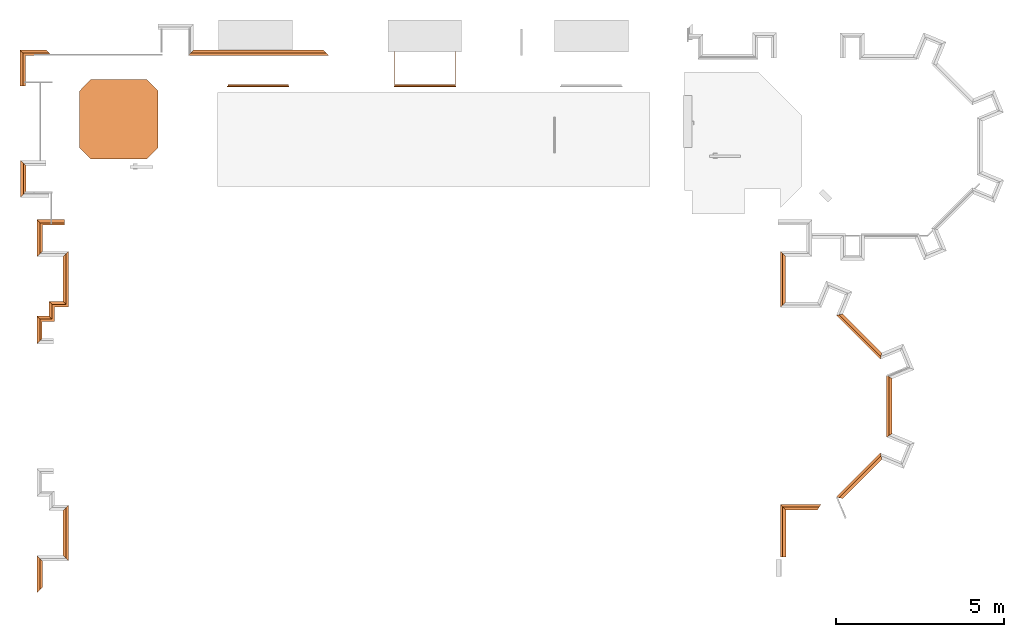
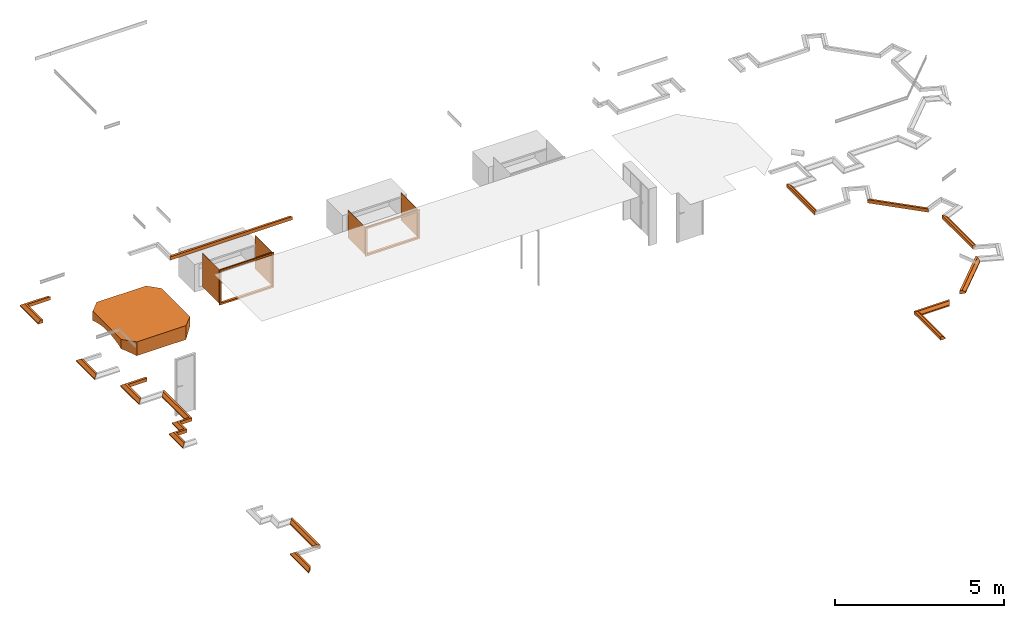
# One storey, part 4 of 9: 16 proxies.
"""IFC2X3 building model written with IfcOpenShell, lengths in metres."""

from ifc_helpers import new_model, entity, si_unit, converted_unit, derived_unit, direction, frame, origin, place, context, subcontext, project, spatial, faceted_brep, source, transform, mapped, material, material_list, type_object, type_shapes, element, save


model = new_model("IFC2X3")

# Units and contexts
model_context = context("Model", 3, precision=1e-05, world=origin(), true_north=direction((6.12303176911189e-17, 1.0)))
plan_context = context("Plan", 3, precision=1e-05, world=origin(), true_north=direction((6.12303176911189e-17, 1.0)))
body_context = subcontext(model_context, "Body", "Model", "MODEL_VIEW")
ifc_project = project(units=[si_unit("LENGTHUNIT", "METRE"), si_unit("AREAUNIT", "SQUARE_METRE"), si_unit("VOLUMEUNIT", "CUBIC_METRE"), converted_unit("PLANEANGLEUNIT", "DEGREE", entity("IfcRatioMeasure", 0.0174532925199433), si_unit("PLANEANGLEUNIT", "RADIAN"), dimensions=[0, 0, 0, 0, 0, 0, 0]), si_unit("MASSUNIT", "GRAM", prefix="KILO"), derived_unit("MASSDENSITYUNIT", [(si_unit("MASSUNIT", "GRAM", prefix="KILO"), 1), (si_unit("LENGTHUNIT", "METRE"), -3)]), derived_unit("MOMENTOFINERTIAUNIT", [(si_unit("LENGTHUNIT", "METRE"), 4)]), si_unit("TIMEUNIT", "SECOND"), si_unit("FREQUENCYUNIT", "HERTZ"), si_unit("THERMODYNAMICTEMPERATUREUNIT", "DEGREE_CELSIUS"), derived_unit("THERMALTRANSMITTANCEUNIT", [(si_unit("MASSUNIT", "GRAM", prefix="KILO"), 1), (si_unit("THERMODYNAMICTEMPERATUREUNIT", "KELVIN"), -1), (si_unit("TIMEUNIT", "SECOND"), -3)]), derived_unit("VOLUMETRICFLOWRATEUNIT", [(si_unit("LENGTHUNIT", "METRE"), 3), (si_unit("TIMEUNIT", "SECOND"), -1)]), derived_unit("MASSFLOWRATEUNIT", [(si_unit("MASSUNIT", "GRAM", prefix="KILO"), 1), (si_unit("TIMEUNIT", "SECOND"), -1)]), derived_unit("ROTATIONALFREQUENCYUNIT", [(si_unit("TIMEUNIT", "SECOND"), -1)]), si_unit("ELECTRICCURRENTUNIT", "AMPERE"), si_unit("ELECTRICVOLTAGEUNIT", "VOLT"), si_unit("POWERUNIT", "WATT"), si_unit("FORCEUNIT", "NEWTON", prefix="KILO"), si_unit("ILLUMINANCEUNIT", "LUX"), si_unit("LUMINOUSFLUXUNIT", "LUMEN"), si_unit("LUMINOUSINTENSITYUNIT", "CANDELA"), derived_unit("USERDEFINED", [(si_unit("MASSUNIT", "GRAM", prefix="KILO"), -1), (si_unit("LENGTHUNIT", "METRE"), -2), (si_unit("TIMEUNIT", "SECOND"), 3), (si_unit("LUMINOUSFLUXUNIT", "LUMEN"), 1)]), derived_unit("SOUNDPOWERUNIT", [(si_unit("MASSUNIT", "GRAM", prefix="KILO"), 1), (si_unit("LENGTHUNIT", "METRE"), 2), (si_unit("TIMEUNIT", "SECOND"), -3)]), derived_unit("SOUNDPRESSUREUNIT", [(si_unit("MASSUNIT", "GRAM", prefix="KILO"), 1), (si_unit("LENGTHUNIT", "METRE"), -1), (si_unit("TIMEUNIT", "SECOND"), -2)]), derived_unit("LINEARVELOCITYUNIT", [(si_unit("LENGTHUNIT", "METRE"), 1), (si_unit("TIMEUNIT", "SECOND"), -1)]), si_unit("PRESSUREUNIT", "PASCAL"), derived_unit("USERDEFINED", [(si_unit("LENGTHUNIT", "METRE"), -2), (si_unit("MASSUNIT", "GRAM", prefix="KILO"), 1), (si_unit("TIMEUNIT", "SECOND"), -2)]), derived_unit("LINEARFORCEUNIT", [(si_unit("MASSUNIT", "GRAM", prefix="KILO"), 1), (si_unit("LENGTHUNIT", "METRE"), 1), (si_unit("TIMEUNIT", "SECOND"), -2), (si_unit("LENGTHUNIT", "METRE"), -1)]), derived_unit("PLANARFORCEUNIT", [(si_unit("MASSUNIT", "GRAM", prefix="KILO"), 1), (si_unit("LENGTHUNIT", "METRE"), 1), (si_unit("TIMEUNIT", "SECOND"), -2), (si_unit("LENGTHUNIT", "METRE"), -2)])], contexts=[model_context, plan_context])

# Site, building, storey
site_placement = place(None, frame((-11.0823275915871, 23.8300534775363, 0.0)))
site = spatial("IfcSite", under=ifc_project, at=site_placement, Name="Default", CompositionType="ELEMENT")
building_placement = place(site_placement, origin())
building = spatial("IfcBuilding", under=site, at=building_placement, Name="Englische Kirche", CompositionType="ELEMENT")
storey_placement = place(building_placement, frame((0.0, 0.0, -3.07499999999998)))
storey = spatial("IfcBuildingStorey", under=building, at=storey_placement, Name="Ebene -1 Basement Phase 6", CompositionType="ELEMENT", Elevation=-3.07499999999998)

# Proxies
building_element_proxy_type_1 = type_object("IfcBuildingElementProxyType", Name="Profilierte Wand:plinth", PredefinedType="NOTDEFINED")
proxy_1_placement = place(storey_placement, frame((-1.44172416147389, 6.71181126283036, 2.97999999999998)))
element("IfcBuildingElementProxy", 1, at=proxy_1_placement, inside=storey, type_object=building_element_proxy_type_1, Name="Profilierte Wand:plinth", ObjectType="Profilierte Wand:plinth", context=body_context, shape_type="Brep", body=[
    faceted_brep([(0.162669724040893, 0.667669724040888, 0.12), (0.162669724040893, 0.667669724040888, 0.0), (0.0, 0.830339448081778, 0.0), (0.0, 0.830339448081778, 0.0450000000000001), (0.0928971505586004, 0.73744229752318, 0.12), (0.162669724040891, 0.162669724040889, 0.12), (0.092897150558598, 0.0928971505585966, 0.12), (0.0, 0.0, 0.0450000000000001), (0.0, 0.0, 0.0), (0.162669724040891, 0.162669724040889, 0.0)], [[[0, 1, 2, 3, 4]], [[5, 6, 7, 8, 9]], [[1, 0, 5, 9]], [[2, 1, 9, 8]], [[3, 2, 8, 7]], [[4, 3, 7, 6]], [[0, 4, 6, 5]]]),
    faceted_brep([(0.947669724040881, 1.10566972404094, 0.12), (0.877897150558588, 1.17544229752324, 0.12), (0.784999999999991, 1.26833944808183, 0.0450000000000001), (0.784999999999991, 1.26833944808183, 0.0), (0.947669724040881, 1.10566972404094, 0.0), (0.947669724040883, 2.76190767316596, 0.12), (0.947669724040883, 2.76190767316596, 0.0), (0.784999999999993, 2.59923794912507, 0.0), (0.784999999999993, 2.59923794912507, 0.0450000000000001), (0.877897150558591, 2.69213509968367, 0.12)], [[[0, 1, 2, 3, 4]], [[5, 6, 7, 8, 9]], [[1, 0, 5, 9]], [[2, 1, 9, 8]], [[3, 2, 8, 7]], [[4, 3, 7, 6]], [[0, 4, 6, 5]]]),
    faceted_brep([(0.162669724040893, 0.667669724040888, 0.12), (0.0928971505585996, 0.737442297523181, 0.12), (0.0, 0.830339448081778, 0.0450000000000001), (0.0, 0.830339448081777, 0.0), (0.162669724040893, 0.667669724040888, 0.0), (0.52266972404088, 0.667669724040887, 0.12), (0.522669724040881, 0.667669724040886, 0.0), (0.359999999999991, 0.830339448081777, 0.0), (0.359999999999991, 0.830339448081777, 0.0450000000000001), (0.452897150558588, 0.737442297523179, 0.12)], [[[0, 1, 2, 3, 4]], [[5, 6, 7, 8, 9]], [[0, 4, 6, 5]], [[4, 3, 7, 6]], [[3, 2, 8, 7]], [[2, 1, 9, 8]], [[1, 0, 5, 9]]]),
    faceted_brep([(0.52266972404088, 0.667669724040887, 0.12), (0.452897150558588, 0.737442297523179, 0.12), (0.359999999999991, 0.830339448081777, 0.0450000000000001), (0.359999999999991, 0.830339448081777, 0.0), (0.522669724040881, 0.667669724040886, 0.0), (0.522669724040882, 1.10566972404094, 0.12), (0.522669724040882, 1.10566972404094, 0.0), (0.359999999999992, 1.26833944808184, 0.0), (0.359999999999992, 1.26833944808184, 0.0450000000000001), (0.452897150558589, 1.17544229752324, 0.12)], [[[0, 1, 2, 3, 4]], [[5, 6, 7, 8, 9]], [[0, 4, 6, 5]], [[4, 3, 7, 6]], [[3, 2, 8, 7]], [[2, 1, 9, 8]], [[1, 0, 5, 9]]]),
    faceted_brep([(0.522669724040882, 1.10566972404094, 0.12), (0.452897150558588, 1.17544229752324, 0.12), (0.359999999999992, 1.26833944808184, 0.0450000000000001), (0.359999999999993, 1.26833944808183, 0.0), (0.522669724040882, 1.10566972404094, 0.0), (0.947669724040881, 1.10566972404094, 0.12), (0.947669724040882, 1.10566972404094, 0.0), (0.784999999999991, 1.26833944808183, 0.0), (0.784999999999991, 1.26833944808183, 0.0450000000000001), (0.877897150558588, 1.17544229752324, 0.12)], [[[0, 1, 2, 3, 4]], [[5, 6, 7, 8, 9]], [[0, 4, 6, 5]], [[4, 3, 7, 6]], [[3, 2, 8, 7]], [[2, 1, 9, 8]], [[1, 0, 5, 9]]]),
])
building_element_proxy_type_2 = type_object("IfcBuildingElementProxyType", Name="Profilierte Wand:plinth", PredefinedType="NOTDEFINED")
proxy_2_placement = place(storey_placement, frame((-1.9422123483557, 14.408718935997, 2.97999999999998)))
element("IfcBuildingElementProxy", 2, at=proxy_2_placement, inside=storey, type_object=building_element_proxy_type_2, Name="Profilierte Wand:plinth", ObjectType="Profilierte Wand:plinth", context=body_context, shape_type="Brep", body=[
    faceted_brep([(0.162669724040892, 0.905, 0.12), (0.0928971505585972, 0.974772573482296, 0.12), (0.0, 1.06766972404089, 0.0450000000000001), (0.0, 1.06766972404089, 0.0), (0.16266972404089, 0.905000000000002, 0.0), (0.952669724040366, 0.904999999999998, 0.12), (0.952669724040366, 0.904999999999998, 0.0), (0.789999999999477, 1.06766972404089, 0.0), (0.789999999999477, 1.06766972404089, 0.0450000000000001), (0.882897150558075, 0.974772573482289, 0.12)], [[[0, 1, 2, 3, 4]], [[5, 6, 7, 8, 9]], [[1, 0, 5, 9]], [[2, 1, 9, 8]], [[3, 2, 8, 7]], [[4, 3, 7, 6]], [[0, 4, 6, 5]]]),
    faceted_brep([(0.162669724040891, 0.905, 0.12), (0.162669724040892, 0.905, 0.0), (0.0, 1.06766972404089, 0.0), (0.0, 1.06766972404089, 0.0450000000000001), (0.0928971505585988, 0.974772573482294, 0.12), (0.16266972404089, 0.0, 0.12), (0.0928971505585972, 0.0, 0.12), (0.0, 0.0, 0.0450000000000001), (0.0, 0.0, 0.0), (0.16266972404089, 0.0, 0.0)], [[[0, 1, 2, 3, 4]], [[5, 6, 7, 8, 9]], [[1, 0, 5, 9]], [[2, 1, 9, 8]], [[3, 2, 8, 7]], [[4, 3, 7, 6]], [[0, 4, 6, 5]]]),
])
building_element_proxy_type_3 = type_object("IfcBuildingElementProxyType", Name="Profilierte Wand:plinth", PredefinedType="NOTDEFINED")
proxy_3_placement = place(storey_placement, frame((-1.4367241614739, 9.31104921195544, 2.97999999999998)))
element("IfcBuildingElementProxy", 3, at=proxy_3_placement, inside=storey, type_object=building_element_proxy_type_3, Name="Profilierte Wand:plinth", ObjectType="Profilierte Wand:plinth", context=body_context, shape_type="Brep", body=[
    faceted_brep([(0.162669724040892, 0.942669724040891, 0.12), (0.0928971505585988, 1.01244229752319, 0.12), (0.0, 1.10533944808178, 0.0450000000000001), (0.0, 1.10533944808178, 0.0), (0.162669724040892, 0.942669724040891, 0.0), (0.817669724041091, 0.942669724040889, 0.12), (0.817669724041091, 0.942669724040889, 0.0), (0.817669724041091, 1.10533944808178, 0.0), (0.817669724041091, 1.10533944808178, 0.0450000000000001), (0.817669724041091, 1.01244229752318, 0.12)], [[[0, 1, 2, 3, 4]], [[5, 6, 7, 8, 9]], [[1, 0, 5, 9]], [[2, 1, 9, 8]], [[3, 2, 8, 7]], [[4, 3, 7, 6]], [[0, 4, 6, 5]]]),
    faceted_brep([(0.162669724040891, 0.162669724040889, 0.120000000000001), (0.092897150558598, 0.0928971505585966, 0.120000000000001), (0.0, 0.0, 0.0450000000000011), (0.0, 0.0, 0.0), (0.162669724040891, 0.162669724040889, 0.0), (0.162669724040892, 0.942669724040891, 0.120000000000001), (0.162669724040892, 0.942669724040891, 0.0), (0.0, 1.10533944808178, 0.0), (0.0, 1.10533944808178, 0.0450000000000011), (0.0928971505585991, 1.01244229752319, 0.120000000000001)], [[[0, 1, 2, 3, 4]], [[5, 6, 7, 8, 9]], [[0, 4, 6, 5]], [[4, 3, 7, 6]], [[3, 2, 8, 7]], [[2, 1, 9, 8]], [[1, 0, 5, 9]]]),
])
building_element_proxy_type_4 = type_object("IfcBuildingElementProxyType", Name="Profilierte Wand:plinth", PredefinedType="NOTDEFINED")
proxy_4_placement = place(storey_placement, frame((-1.4367241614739, -0.708188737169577, 2.97999999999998)))
element("IfcBuildingElementProxy", 4, at=proxy_4_placement, inside=storey, type_object=building_element_proxy_type_4, Name="Profilierte Wand:plinth", ObjectType="Profilierte Wand:plinth", context=body_context, shape_type="Brep", body=[
    faceted_brep([(0.16266972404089, 0.162669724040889, 0.12), (0.0928971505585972, 0.0928971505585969, 0.119999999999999), (0.0, 0.0, 0.0449999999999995), (0.0, 0.0, 0.0), (0.16266972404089, 0.16266972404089, 0.0), (0.162669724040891, 0.94266972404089, 0.12), (0.162669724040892, 0.94266972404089, 0.0), (0.0, 1.10533944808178, 0.0), (0.0, 1.10533944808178, 0.0449999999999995), (0.0928971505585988, 1.01244229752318, 0.119999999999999)], [[[0, 1, 2, 3, 4]], [[5, 6, 7, 8, 9]], [[1, 0, 5, 9]], [[2, 1, 9, 8]], [[3, 2, 8, 7]], [[4, 3, 7, 6]], [[0, 4, 6, 5]]]),
])
building_element_proxy_type_5 = type_object("IfcBuildingElementProxyType", Name="Profilierte Wand:plinth", PredefinedType="NOTDEFINED")
proxy_5_placement = place(storey_placement, frame((-0.656724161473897, 0.23448098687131, 2.97999999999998)))
element("IfcBuildingElementProxy", 5, at=proxy_5_placement, inside=storey, type_object=building_element_proxy_type_5, Name="Profilierte Wand:plinth", ObjectType="Profilierte Wand:plinth", context=body_context, shape_type="Brep", body=[
    faceted_brep([(0.16266972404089, 0.0, 0.12), (0.0928971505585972, 0.069772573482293, 0.119999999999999), (0.0, 0.162669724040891, 0.0449999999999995), (0.0, 0.162669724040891, 0.0), (0.16266972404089, 0.0, 0.0), (0.162669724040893, 1.67, 0.12), (0.162669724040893, 1.67, 0.0), (0.0, 1.50733027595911, 0.0), (0.0, 1.50733027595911, 0.0449999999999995), (0.0928971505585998, 1.60022742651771, 0.119999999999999)], [[[0, 1, 2, 3, 4]], [[5, 6, 7, 8, 9]], [[1, 0, 5, 9]], [[2, 1, 9, 8]], [[3, 2, 8, 7]], [[4, 3, 7, 6]], [[0, 4, 6, 5]]]),
])
building_element_proxy_type_6 = type_object("IfcBuildingElementProxyType", Name="Profilierte Wand:plinth", PredefinedType="NOTDEFINED")
proxy_6_placement = place(storey_placement, frame((20.7351330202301, 1.75181126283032, 2.97999999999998)))
element("IfcBuildingElementProxy", 6, at=proxy_6_placement, inside=storey, type_object=building_element_proxy_type_6, Name="Profilierte Wand:plinth", ObjectType="Profilierte Wand:plinth", context=body_context, shape_type="Brep", body=[
    faceted_brep([(0.0, 0.162669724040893, 0.12), (0.0, 0.162669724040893, 0.0), (0.162669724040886, 0.0, 0.0), (0.162669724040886, 0.0, 0.0450000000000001), (0.0697725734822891, 0.0928971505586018, 0.12), (1.20939098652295, 0.16266972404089, 0.12), (1.16277044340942, 0.0928971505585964, 0.12), (1.10069855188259, 0.0, 0.0450000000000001), (1.10069855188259, 0.0, 0.0), (1.20939098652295, 0.162669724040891, 0.0)], [[[0, 1, 2, 3, 4]], [[5, 6, 7, 8, 9]], [[1, 0, 5, 9]], [[2, 1, 9, 8]], [[3, 2, 8, 7]], [[4, 3, 7, 6]], [[0, 4, 6, 5]]]),
])
building_element_proxy_type_7 = type_object("IfcBuildingElementProxyType", Name="Profilierte Wand:plinth", PredefinedType="NOTDEFINED")
proxy_7_placement = place(storey_placement, frame((22.4044004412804, 2.0987675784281, 2.97999999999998)))
element("IfcBuildingElementProxy", 7, at=proxy_7_placement, inside=storey, type_object=building_element_proxy_type_7, Name="Profilierte Wand:plinth", ObjectType="Profilierte Wand:plinth", context=body_context, shape_type="Brep", body=[
    faceted_brep([(0.0, 0.0381677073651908, 0.12), (0.0, 0.0381677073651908, 0.0), (0.191882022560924, 0.0, 0.0), (0.191882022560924, 0.0, 0.0450000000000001), (0.0823023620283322, 0.0217967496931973, 0.12), (1.31794788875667, 1.35611559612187, 0.12), (1.33431884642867, 1.27381323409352, 0.12), (1.35611559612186, 1.16423357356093, 0.0450000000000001), (1.35611559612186, 1.16423357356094, 0.0), (1.31794788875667, 1.35611559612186, 0.0)], [[[0, 1, 2, 3, 4]], [[5, 6, 7, 8, 9]], [[1, 0, 5, 9]], [[2, 1, 9, 8]], [[3, 2, 8, 7]], [[4, 3, 7, 6]], [[0, 4, 6, 5]]]),
])
building_element_proxy_type_8 = type_object("IfcBuildingElementProxyType", Name="Profilierte Wand:plinth", PredefinedType="NOTDEFINED")
proxy_8_placement = place(storey_placement, frame((23.910060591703, 3.92915023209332, 2.97999999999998)))
element("IfcBuildingElementProxy", 8, at=proxy_8_placement, inside=storey, type_object=building_element_proxy_type_8, Name="Profilierte Wand:plinth", ObjectType="Profilierte Wand:plinth", context=body_context, shape_type="Brep", body=[
    faceted_brep([(0.0, 0.0, 0.12), (0.0, 0.0, 0.0), (0.16266972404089, 0.108692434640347, 0.0), (0.162669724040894, 0.10869243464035, 0.0450000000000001), (0.0697725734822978, 0.0466205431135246, 0.12), (0.0, 1.84966150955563, 0.12), (0.0697725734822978, 1.80304096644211, 0.12), (0.162669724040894, 1.74096907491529, 0.0450000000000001), (0.162669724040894, 1.74096907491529, 0.0), (0.0, 1.84966150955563, 0.0)], [[[0, 1, 2, 3, 4]], [[5, 6, 7, 8, 9]], [[1, 0, 5, 9]], [[2, 1, 9, 8]], [[3, 2, 8, 7]], [[4, 3, 7, 6]], [[0, 4, 6, 5]]]),
])
building_element_proxy_type_9 = type_object("IfcBuildingElementProxyType", Name="Profilierte Wand:plinth", PredefinedType="NOTDEFINED")
proxy_9_placement = place(storey_placement, frame((22.4093712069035, 6.25237766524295, 2.97999999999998)))
element("IfcBuildingElementProxy", 9, at=proxy_9_placement, inside=storey, type_object=building_element_proxy_type_9, Name="Profilierte Wand:plinth", ObjectType="Profilierte Wand:plinth", context=body_context, shape_type="Brep", body=[
    faceted_brep([(0.0, 1.31128443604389, 0.12), (0.0823023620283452, 1.32765539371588, 0.12), (0.191882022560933, 1.34945214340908, 0.0450000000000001), (0.191882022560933, 1.34945214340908, 0.0), (0.0, 1.31128443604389, 0.0), (1.31128443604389, 0.0, 0.12), (1.31128443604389, 0.0, 0.0), (1.34945214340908, 0.191882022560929, 0.0), (1.34945214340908, 0.191882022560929, 0.0450000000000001), (1.32765539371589, 0.0823023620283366, 0.12)], [[[0, 1, 2, 3, 4]], [[5, 6, 7, 8, 9]], [[1, 0, 5, 9]], [[2, 1, 9, 8]], [[3, 2, 8, 7]], [[4, 3, 7, 6]], [[0, 4, 6, 5]]]),
])
building_element_proxy_type_10 = type_object("IfcBuildingElementProxyType", Name="Profilierte Wand:plinth", PredefinedType="NOTDEFINED")
proxy_10_placement = place(storey_placement, frame((20.7349547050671, 7.79391848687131, 2.97999999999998)))
element("IfcBuildingElementProxy", 10, at=proxy_10_placement, inside=storey, type_object=building_element_proxy_type_10, Name="Profilierte Wand:plinth", ObjectType="Profilierte Wand:plinth", context=body_context, shape_type="Brep", body=[
    faceted_brep([(0.0, 0.0, 0.12), (0.0, 0.0, 0.0), (0.16266972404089, 0.162669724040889, 0.0), (0.162669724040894, 0.162669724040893, 0.0450000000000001), (0.0697725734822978, 0.0697725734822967, 0.12), (0.0, 1.67980044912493, 0.12), (0.0697725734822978, 1.61002787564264, 0.12), (0.162669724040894, 1.51713072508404, 0.0450000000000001), (0.162669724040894, 1.51713072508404, 0.0), (0.0, 1.67980044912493, 0.0)], [[[0, 1, 2, 3, 4]], [[5, 6, 7, 8, 9]], [[1, 0, 5, 9]], [[2, 1, 9, 8]], [[3, 2, 8, 7]], [[4, 3, 7, 6]], [[0, 4, 6, 5]]]),
])
building_element_proxy_type_11 = type_object("IfcBuildingElementProxyType", Name="Profilierte Wand:plinth", PredefinedType="NOTDEFINED")
proxy_11_placement = place(storey_placement, frame((3.07545737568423, 15.3137189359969, 2.97999999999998)))
element("IfcBuildingElementProxy", 11, at=proxy_11_placement, inside=storey, type_object=building_element_proxy_type_11, Name="Profilierte Wand:plinth", ObjectType="Profilierte Wand:plinth", context=body_context, shape_type="Brep", body=[
    faceted_brep([(0.0, 0.0, 0.12), (0.0697725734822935, 0.0697725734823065, 0.12), (0.16266972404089, 0.162669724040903, 0.0450000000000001), (0.16266972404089, 0.162669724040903, 0.0), (0.0, 0.0, 0.0), (4.18500000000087, 0.0, 0.12), (4.18500000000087, 0.0, 0.0), (4.02233027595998, 0.16266972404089, 0.0), (4.02233027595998, 0.16266972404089, 0.0450000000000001), (4.11522742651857, 0.0697725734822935, 0.12)], [[[0, 1, 2, 3, 4]], [[5, 6, 7, 8, 9]], [[1, 0, 5, 9]], [[2, 1, 9, 8]], [[3, 2, 8, 7]], [[4, 3, 7, 6]], [[0, 4, 6, 5]]]),
])
building_element_proxy_type_12 = type_object("IfcBuildingElementProxyType", Name="Profilierte Wand:plinth", PredefinedType="NOTDEFINED")
proxy_12_placement = place(storey_placement, frame((20.7351330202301, 0.359480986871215, 2.97999999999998)))
element("IfcBuildingElementProxy", 12, at=proxy_12_placement, inside=storey, type_object=building_element_proxy_type_12, Name="Profilierte Wand:plinth", ObjectType="Profilierte Wand:plinth", context=body_context, shape_type="Brep", body=[
    faceted_brep([(0.0, 0.0, 0.12), (0.0, 0.0, 0.0), (0.16266972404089, 0.0, 0.0), (0.162669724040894, 0.0, 0.0450000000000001), (0.0697725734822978, 0.0, 0.12), (0.0, 1.555, 0.12), (0.0697725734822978, 1.48522742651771, 0.12), (0.162669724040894, 1.39233027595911, 0.0450000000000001), (0.162669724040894, 1.39233027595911, 0.0), (0.0, 1.555, 0.0)], [[[0, 1, 2, 3, 4]], [[5, 6, 7, 8, 9]], [[1, 0, 5, 9]], [[2, 1, 9, 8]], [[3, 2, 8, 7]], [[4, 3, 7, 6]], [[0, 4, 6, 5]]]),
])
building_element_proxy_type_13 = type_object("IfcBuildingElementProxyType", Name="Profilierte Wand:plinth", PredefinedType="NOTDEFINED")
proxy_13_placement = place(storey_placement, frame((-1.92770053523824, 11.081239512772, 2.97999999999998)))
element("IfcBuildingElementProxy", 13, at=proxy_13_placement, inside=storey, type_object=building_element_proxy_type_13, Name="Profilierte Wand:plinth", ObjectType="Profilierte Wand:plinth", context=body_context, shape_type="Brep", body=[
    faceted_brep([(0.162669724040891, 0.939979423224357, 0.12), (0.162669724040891, 0.939979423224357, 0.0), (0.0, 1.10264914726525, 0.0), (0.0, 1.10264914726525, 0.0450000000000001), (0.0928971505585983, 1.00975199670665, 0.12), (0.16266972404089, 0.16266972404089, 0.12), (0.0928971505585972, 0.0928971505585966, 0.12), (0.0, 0.0, 0.0450000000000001), (0.0, 0.0, 0.0), (0.162669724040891, 0.16266972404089, 0.0)], [[[0, 1, 2, 3, 4]], [[5, 6, 7, 8, 9]], [[1, 0, 5, 9]], [[2, 1, 9, 8]], [[3, 2, 8, 7]], [[4, 3, 7, 6]], [[0, 4, 6, 5]]]),
])
ifc_material_1 = material(Name="Mauerwerk - Sichtmauerwerk_72x265 english bond Stage2")
building_element_proxy_type_14 = type_object("IfcBuildingElementProxyType", Name="SimpleVault:SimpleVault Tower", PredefinedType="NOTDEFINED", material=ifc_material_1)
shared_shape_1 = source(origin(), body_context, "Body", "Brep", [
    faceted_brep([(0.00159527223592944, 0.344095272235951, 0.501595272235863), (0.336595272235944, 0.00159527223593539, 0.501595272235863), (2.01659527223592, 0.00159527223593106, 0.501595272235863), (2.35159527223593, 0.344095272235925, 0.501595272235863), (2.35159527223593, 2.02409527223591, 0.501595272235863), (2.01659527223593, 2.36659527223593, 0.501595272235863), (0.336595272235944, 2.36659527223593, 0.501595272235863), (0.00159527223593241, 2.02409527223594, 0.501595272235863), (2.01659527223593, 2.36659527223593, 0.0483678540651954), (2.01659527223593, 2.36659527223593, 0.00159527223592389), (1.60159988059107, 2.36659527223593, 0.00159527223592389), (0.76159988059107, 2.36659527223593, 0.00159527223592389), (0.336595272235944, 2.36659527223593, 0.00159527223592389), (0.336595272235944, 2.36659527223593, 0.0483678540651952), (0.00159527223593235, 2.02409527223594, 0.162148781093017), (0.00159527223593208, 1.87630152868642, 0.212192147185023), (0.0015952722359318, 1.7255615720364, 0.252483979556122), (0.00159527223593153, 1.5725137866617, 0.282854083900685), (0.00159527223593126, 1.41781045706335, 0.303173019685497), (0.00159527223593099, 1.26211092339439, 0.313354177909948), (0.00159527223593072, 1.106078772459, 0.313354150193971), (0.00159527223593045, 0.950379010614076, 0.303172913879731), (0.00159527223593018, 0.795675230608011, 0.282853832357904), (0.00159527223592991, 0.642626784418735, 0.252483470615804), (0.00159527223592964, 0.491886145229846, 0.212191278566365), (0.00159527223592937, 0.344095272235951, 0.162148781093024), (0.336595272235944, 0.00159527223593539, 0.00159527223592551), (2.01659527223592, 0.00159527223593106, 0.00159527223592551), (2.35159527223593, 0.344095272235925, 0.162148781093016), (2.35159527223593, 0.491886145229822, 0.212191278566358), (2.35159527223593, 0.642626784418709, 0.2524834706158), (2.35159527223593, 0.795675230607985, 0.2828538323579), (2.35159527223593, 0.95037901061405, 0.303172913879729), (2.35159527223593, 1.10607877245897, 0.31335415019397), (2.35159527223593, 1.26211092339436, 0.313354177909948), (2.35159527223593, 1.41781045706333, 0.303173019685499), (2.35159527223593, 1.57251378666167, 0.282854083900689), (2.35159527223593, 1.72556157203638, 0.252483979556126), (2.35159527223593, 1.87630152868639, 0.212192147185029), (2.35159527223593, 2.02409527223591, 0.162148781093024), (0.170184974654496, 2.19645937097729, 0.0896264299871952), (0.252262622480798, 2.28037457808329, 0.0483678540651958), (0.29465364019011, 2.32371464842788, 0.0254295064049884), (2.05853690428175, 2.32371464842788, 0.025429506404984), (2.18300556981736, 2.19645937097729, 0.0896264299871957), (0.0865935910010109, 2.11099653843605, 0.127569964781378), (2.26659695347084, 2.11099653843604, 0.127569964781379), (2.10092792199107, 2.28037457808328, 0.048367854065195), (2.23721478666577, 0.227154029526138, 0.114687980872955), (0.115975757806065, 0.227154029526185, 0.114687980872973), (0.227746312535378, 0.112881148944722, 0.061120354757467), (2.12544423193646, 0.112881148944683, 0.0611203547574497)], [[[0, 1, 2, 3, 4, 5, 6, 7]], [[6, 5, 8, 9, 10, 11, 12, 13]], [[7, 14, 15, 16, 17, 18, 19, 20, 21, 22, 23, 24, 25, 0]], [[2, 1, 26, 27]], [[3, 28, 29, 30, 31, 32, 33, 34, 35, 36, 37, 38, 39, 4]], [[11, 40, 41]], [[42, 12, 11]], [[43, 10, 9]], [[41, 42, 11]], [[44, 40, 11, 10]], [[37, 16, 15, 38]], [[14, 45, 46, 39]], [[14, 39, 38, 15]], [[45, 40, 44, 46]], [[17, 16, 37, 36]], [[10, 43, 47]], [[10, 47, 44]], [[36, 35, 18, 17]], [[20, 33, 32, 21]], [[18, 35, 34, 19]], [[33, 20, 19, 34]], [[22, 21, 32, 31]], [[25, 24, 29, 28]], [[29, 24, 23, 30]], [[48, 49, 25, 28]], [[30, 23, 22, 31]], [[50, 49, 48, 51]], [[51, 27, 26, 50]], [[49, 50, 26, 1, 0, 25]], [[45, 14, 7, 6, 13, 12, 42, 41, 40]], [[3, 2, 27, 51, 48, 28]], [[4, 39, 46, 44, 47, 43, 9, 8, 5]]]),
])
type_shapes(building_element_proxy_type_14, [shared_shape_1])
proxy_14_placement = place(storey_placement, frame((-0.171142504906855, 12.226123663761, 2.42663214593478)))
element("IfcBuildingElementProxy", 14, at=proxy_14_placement, inside=storey, type_object=building_element_proxy_type_14, material=ifc_material_1, Name="SimpleVault:SimpleVault Tower", ObjectType="SimpleVault:SimpleVault Tower", context=body_context, shape_type="MappedRepresentation", body=[
    mapped(shared_shape_1, transform((0.0, 0.0, 0.0), scale=1.0)),
])
ifc_material_2 = material(Name="<Unnamed>")
ifc_material_list_1 = material_list([ifc_material_2, ifc_material_2, ifc_material_2])
ifc_material_list_2 = material_list([ifc_material_2, ifc_material_2, ifc_material_2])
building_element_proxy_type_15 = type_object("IfcBuildingElementProxyType", Name="basementWindow1:1810x1200", PredefinedType="NOTDEFINED", material=ifc_material_list_2)
shared_shape_2 = source(origin(), body_context, "Body", "Brep", [
    faceted_brep([(1.83, 1.07, 1.01999999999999), (1.83, 0.0799999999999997, 1.01999999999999), (1.83, 0.0799999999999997, 0.0199999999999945), (1.83, 1.07, 0.0199999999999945), (1.825, 1.07, 1.01999999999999), (1.825, 1.07, 0.0199999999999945), (1.825, 0.0799999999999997, 0.0199999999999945), (1.825, 0.0799999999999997, 1.01999999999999)], [[[0, 1, 2, 3]], [[4, 5, 6, 7]], [[1, 0, 4, 7]], [[2, 1, 7, 6]], [[3, 2, 6, 5]], [[0, 3, 5, 4]]]),
    faceted_brep([(0.0249999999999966, 0.0799999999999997, 1.01999999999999), (0.0249999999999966, 0.0799999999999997, 0.0199999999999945), (0.0249999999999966, 1.07, 0.0199999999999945), (0.0249999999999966, 1.07, 1.01999999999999), (0.0199999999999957, 0.0799999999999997, 1.01999999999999), (0.0199999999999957, 1.07, 1.01999999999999), (0.0199999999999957, 1.07, 0.0199999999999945), (0.0199999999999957, 0.0799999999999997, 0.0199999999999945)], [[[0, 1, 2, 3]], [[4, 5, 6, 7]], [[1, 0, 4, 7]], [[2, 1, 7, 6]], [[3, 2, 6, 5]], [[0, 3, 5, 4]]]),
    faceted_brep([(0.0199999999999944, 0.0799999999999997, 1.01999999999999), (0.0199999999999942, 0.0399999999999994, 1.01999999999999), (1.82999999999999, 0.0399999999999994, 1.01999999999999), (1.82999999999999, 0.0799999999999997, 1.01999999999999), (0.059999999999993, 0.0, 0.979999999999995), (0.059999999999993, 0.0799999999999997, 0.979999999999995), (1.79, 0.0799999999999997, 0.979999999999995), (1.79, 0.0, 0.979999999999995), (0.0, 0.0399999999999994, 1.03999999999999), (0.0, 0.0, 1.03999999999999), (1.84999999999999, 0.0, 1.03999999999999), (1.84999999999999, 0.0399999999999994, 1.03999999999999), (1.83, 0.0399999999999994, 0.0199999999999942), (1.83, 0.0799999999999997, 0.0199999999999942), (1.79, 0.0799999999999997, 0.059999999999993), (1.79, 0.0, 0.0599999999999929), (1.84999999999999, 0.0, 0.0), (1.84999999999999, 0.0399999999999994, 0.0), (0.0199999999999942, 0.0399999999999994, 0.0199999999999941), (0.0199999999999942, 0.0799999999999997, 0.0199999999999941), (0.059999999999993, 0.0799999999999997, 0.059999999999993), (0.0599999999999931, 0.0, 0.059999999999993), (0.0, 0.0, 0.0), (0.0, 0.0399999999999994, 0.0)], [[[0, 1, 2, 3]], [[4, 5, 6, 7]], [[8, 9, 10, 11]], [[3, 2, 12, 13]], [[7, 6, 14, 15]], [[11, 10, 16, 17]], [[13, 12, 18, 19]], [[15, 14, 20, 21]], [[17, 16, 22, 23]], [[11, 17, 23, 8], [1, 18, 12, 2]], [[19, 18, 1, 0]], [[3, 13, 19, 0], [5, 20, 14, 6]], [[21, 20, 5, 4]], [[7, 15, 21, 4], [9, 22, 16, 10]], [[23, 22, 9, 8]]], outer=[[True], [True], [True], [True], [True], [True], [True], [True], [True], [True, False], [True], [True, False], [True], [False, True], [True]]),
])
type_shapes(building_element_proxy_type_15, [shared_shape_2])
proxy_15_placement = place(storey_placement, frame((9.21045737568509, 14.3687189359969, 1.54000000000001)))
element("IfcBuildingElementProxy", 15, at=proxy_15_placement, inside=storey, type_object=building_element_proxy_type_15, material=ifc_material_list_1, Name="basementWindow1:1810x1200", ObjectType="basementWindow1:1810x1200", context=body_context, shape_type="MappedRepresentation", body=[
    mapped(shared_shape_2, transform((0.0, 0.0, 0.0), scale=1.0)),
])
ifc_material_list_3 = material_list([ifc_material_2, ifc_material_2, ifc_material_2])
ifc_material_list_4 = material_list([ifc_material_2, ifc_material_2, ifc_material_2])
building_element_proxy_type_16 = type_object("IfcBuildingElementProxyType", Name="basementWindow1:1930x1310", PredefinedType="NOTDEFINED", material=ifc_material_list_4)
shared_shape_3 = source(origin(), body_context, "Body", "Brep", [
    faceted_brep([(1.83, 1.07, 1.23799999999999), (1.83, 0.0799999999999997, 1.23799999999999), (1.83, 0.0799999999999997, 0.0199999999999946), (1.83, 1.07, 0.0199999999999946), (1.825, 1.07, 1.23799999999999), (1.825, 1.07, 0.0199999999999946), (1.825, 0.0799999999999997, 0.0199999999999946), (1.825, 0.0799999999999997, 1.23799999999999)], [[[0, 1, 2, 3]], [[4, 5, 6, 7]], [[1, 0, 4, 7]], [[2, 1, 7, 6]], [[3, 2, 6, 5]], [[0, 3, 5, 4]]]),
    faceted_brep([(0.0249999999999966, 0.0799999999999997, 1.23799999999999), (0.0249999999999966, 0.0799999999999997, 0.0199999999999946), (0.0249999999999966, 1.07, 0.0199999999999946), (0.0249999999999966, 1.07, 1.23799999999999), (0.0199999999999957, 0.0799999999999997, 1.23799999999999), (0.0199999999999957, 1.07, 1.23799999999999), (0.0199999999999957, 1.07, 0.0199999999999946), (0.0199999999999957, 0.0799999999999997, 0.0199999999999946)], [[[0, 1, 2, 3]], [[4, 5, 6, 7]], [[1, 0, 4, 7]], [[2, 1, 7, 6]], [[3, 2, 6, 5]], [[0, 3, 5, 4]]]),
    faceted_brep([(0.0199999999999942, 0.0799999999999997, 1.23799999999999), (0.0199999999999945, 0.0399999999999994, 1.23799999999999), (1.82999999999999, 0.0399999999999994, 1.23799999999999), (1.82999999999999, 0.0799999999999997, 1.23799999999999), (0.0599999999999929, 0.0, 1.19799999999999), (0.0599999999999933, 0.0799999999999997, 1.19799999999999), (1.79, 0.0799999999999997, 1.19799999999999), (1.79, 0.0, 1.19799999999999), (0.0, 0.0399999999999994, 1.25799999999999), (0.0, 0.0, 1.25799999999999), (1.84999999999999, 0.0, 1.25799999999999), (1.84999999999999, 0.0399999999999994, 1.25799999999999), (1.83, 0.0399999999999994, 0.0199999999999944), (1.83, 0.0799999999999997, 0.0199999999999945), (1.79, 0.0799999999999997, 0.0599999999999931), (1.79, 0.0, 0.0599999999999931), (1.84999999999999, 0.0, 0.0), (1.84999999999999, 0.0399999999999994, 0.0), (0.0199999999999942, 0.0399999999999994, 0.0199999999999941), (0.019999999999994, 0.0799999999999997, 0.0199999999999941), (0.059999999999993, 0.0799999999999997, 0.0599999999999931), (0.0599999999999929, 0.0, 0.059999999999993), (0.0, 0.0, 0.0), (0.0, 0.0399999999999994, 0.0)], [[[0, 1, 2, 3]], [[4, 5, 6, 7]], [[8, 9, 10, 11]], [[3, 2, 12, 13]], [[7, 6, 14, 15]], [[11, 10, 16, 17]], [[13, 12, 18, 19]], [[15, 14, 20, 21]], [[17, 16, 22, 23]], [[11, 17, 23, 8], [1, 18, 12, 2]], [[19, 18, 1, 0]], [[3, 13, 19, 0], [5, 20, 14, 6]], [[21, 20, 5, 4]], [[7, 15, 21, 4], [9, 22, 16, 10]], [[23, 22, 9, 8]]], outer=[[True], [True], [True], [True], [True], [True], [True], [True], [True], [True, False], [True], [True, False], [True], [False, True], [True]]),
])
type_shapes(building_element_proxy_type_16, [shared_shape_3])
proxy_16_placement = place(storey_placement, frame((4.23545737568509, 14.368718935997, 1.52500000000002)))
element("IfcBuildingElementProxy", 16, at=proxy_16_placement, inside=storey, type_object=building_element_proxy_type_16, material=ifc_material_list_3, Name="basementWindow1:1930x1310", ObjectType="basementWindow1:1930x1310", context=body_context, shape_type="MappedRepresentation", body=[
    mapped(shared_shape_3, transform((0.0, 0.0, 0.0), scale=1.0)),
])

save(model, "model.ifc")
